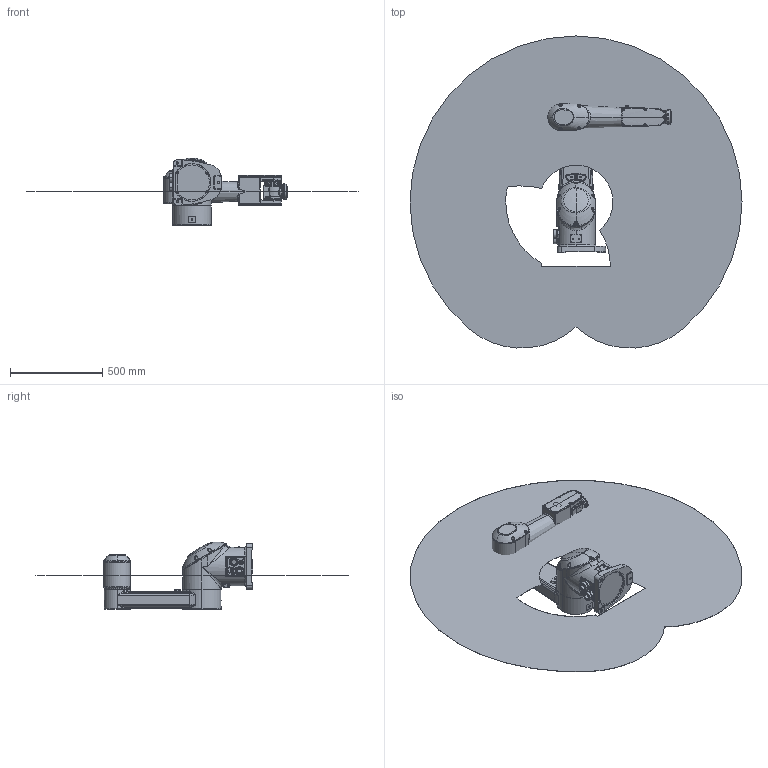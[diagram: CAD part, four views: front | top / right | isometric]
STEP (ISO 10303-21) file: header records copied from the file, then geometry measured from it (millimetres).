
FILE_DESCRIPTION (( 'STEP AP203' ), '1' );
FILE_NAME ('阹陎暱R090-10-3-E 俋窒耀倰.STEP', '2020-11-14T03:09:19', ( 'Topstarltd' ), ( 'Topstarltd.Com' ), 'SwSTEP 2.0', 'SolidWorks 2016', '' );
FILE_SCHEMA (( 'CONFIG_CONTROL_DESIGN' ));
Products named in the file (6): 阹陎暱R090-10-3-E-02; 阹陎暱R090-10-3-E-03; 阹陎暱R090-10-3-E-04; 阹陎暱R090-10-3-E-05; 阹陎暱R090-10-3-E 俋窒耀倰; 阹陎暱R090-10-3-E-01
Assembly tree (5 placements, depth 2):
  阹陎暱R090-10-3-E 俋窒耀倰
    阹陎暱R090-10-3-E-01
    阹陎暱R090-10-3-E-02
    阹陎暱R090-10-3-E-03
    阹陎暱R090-10-3-E-04
    阹陎暱R090-10-3-E-05
Bounding box: 1800 x 1691.58 x 367.27 mm (x, y, z)
Volume: 2208604.6 mm3; surface area: 6234920.7 mm2
Topology: 1 solids, 142 shells, 2206 faces, 6536 edges, 4447 vertices
Faces by surface type: plane 786, cylinder 689, bspline 610, cone 121
Entity records: 140938 total; most frequent: CARTESIAN_POINT 86933, ORIENTED_EDGE 11138, DIRECTION 9809, EDGE_CURVE 6482, VERTEX_POINT 4447, AXIS2_PLACEMENT_3D 3610, VECTOR 2589, LINE 2589
